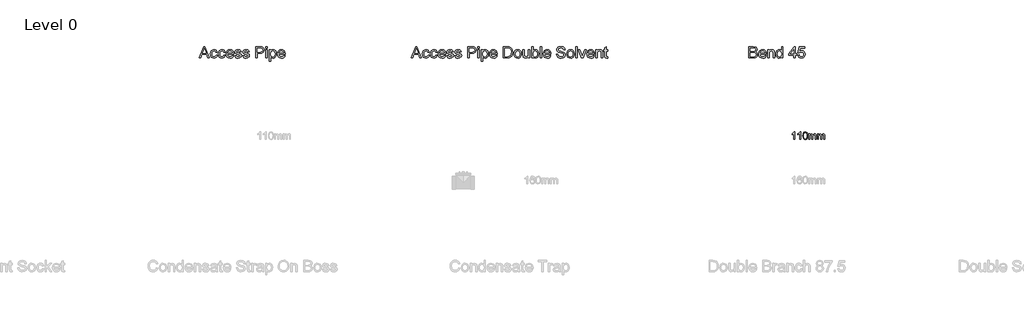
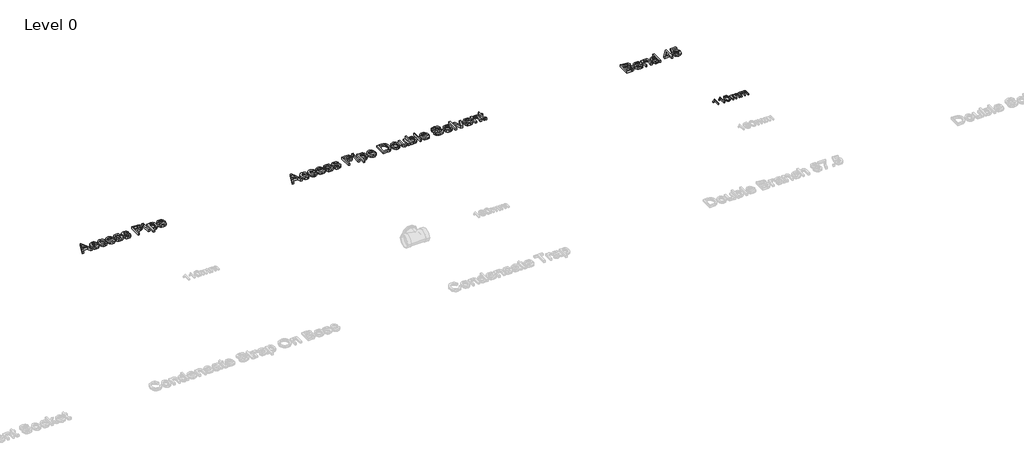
# One storey, part 25 of 28: 4 proxies.
"""IFC4 building model written with IfcOpenShell, lengths in millimetres."""

from ifc_helpers import new_model, si_unit, origin, origin_with_axes, place, context, project, spatial, polyline, outline, extrude, element, save

model = new_model("IFC4")

# Units and contexts
model_context = context("Model", 3, world=origin())
ifc_project = project(units=[si_unit("LENGTHUNIT", "METRE", prefix="MILLI")], contexts=[model_context])

# Site, building, storey
site = spatial("IfcSite", under=ifc_project)
building = spatial("IfcBuilding", under=site)
storey = spatial("IfcBuildingStorey", under=building, Name="Level 0", Elevation=0.0)

# Proxies
placement = place(None, origin())
element("IfcBuildingElementProxy", 1, Name="100mm Arial", ObjectType="100mm Arial", at=placement, inside=storey, context=model_context, shape_type="SweptSolid", body=[
    extrude(outline(polyline([(-3291.7293188, 8237.7167304), (-3304.0370111, 8237.7167304), (-3304.0370111, 8314.4474996), (-3315.6956649, 8306.1422111), (-3328.6523957, 8299.9282688), (-3328.6523957, 8311.5628842), (-3310.6115303, 8323.0773073), (-3299.6620111, 8336.1782688), (-3291.7293188, 8336.1782688), (-3291.7293188, 8237.7167304)])), origin_with_axes(), (0.0, 0.0, 1.0), 15.0),
    extrude(outline(polyline([(-3216.3447034, 8237.7167304), (-3228.6523957, 8237.7167304), (-3228.6523957, 8314.4474996), (-3240.3110495, 8306.1422111), (-3253.2677803, 8299.9282688), (-3253.2677803, 8311.5628842), (-3235.2269149, 8323.0773073), (-3224.2773957, 8336.1782688), (-3216.3447034, 8336.1782688), (-3216.3447034, 8237.7167304)])), origin_with_axes(), (0.0, 0.0, 1.0), 15.0),
    extrude(outline(polyline([(-3187.1139341, 8286.1542304), (-3183.4961457, 8314.4835573), (-3172.7509534, 8330.8176919), (-3154.8062418, 8336.1782688), (-3140.4312418, 8333.0051919), (-3130.5033572, 8323.8585573), (-3124.7341264, 8309.2912496), (-3122.4985495, 8286.1542304), (-3126.0802803, 8257.9450958), (-3136.7894149, 8241.5749035), (-3154.8062418, 8236.1782688), (-3167.5947034, 8238.5220188), (-3177.3062418, 8245.5532688), (-3184.6620111, 8262.2059131), (-3187.1139341, 8286.1542304)]), holes=[polyline([(-3174.8062418, 8286.1782688), (-3173.3639341, 8266.8182929), (-3169.0370111, 8255.613365), (-3162.5947034, 8250.2678121), (-3154.8062418, 8248.4859611), (-3147.0177803, 8250.2738217), (-3140.5754726, 8255.6374035), (-3136.2485495, 8266.848341), (-3134.8062418, 8286.1782688), (-3136.2004726, 8305.1025477), (-3140.3831649, 8316.394615), (-3146.8134534, 8322.0015861), (-3154.9504726, 8323.8705765), (-3162.6547995, 8322.2239419), (-3168.8447034, 8317.2840381), (-3173.3158572, 8305.2888458), (-3174.8062418, 8286.1782688)])]), origin_with_axes(), (0.0, 0.0, 1.0), 15.0),
    extrude(outline(polyline([(-3108.6523957, 8237.7167304), (-3108.6523957, 8310.0244227), (-3096.3447034, 8310.0244227), (-3096.3447034, 8298.1253842), (-3087.8831649, 8307.8729804), (-3075.8398957, 8311.5628842), (-3063.5081649, 8307.800865), (-3056.7293188, 8297.2599996), (-3047.1259534, 8307.9871631), (-3034.9985495, 8311.5628842), (-3025.7467466, 8310.0755044), (-3018.9047995, 8305.613365), (-3014.6770351, 8298.0562736), (-3013.2677803, 8287.2840381), (-3013.2677803, 8237.7167304), (-3025.5754726, 8237.7167304), (-3025.5754726, 8281.9955765), (-3026.7172995, 8292.2720188), (-3030.8519149, 8297.332115), (-3037.8831649, 8299.2551919), (-3049.9865303, 8294.3273073), (-3054.8062418, 8278.5340381), (-3054.8062418, 8237.7167304), (-3067.1139341, 8237.7167304), (-3067.1139341, 8283.3657688), (-3069.9624918, 8295.2888458), (-3079.3014341, 8299.2551919), (-3088.4120111, 8296.6109611), (-3094.4697034, 8288.8705765), (-3096.3447034, 8274.1830765), (-3096.3447034, 8237.7167304), (-3108.6523957, 8237.7167304)])), origin_with_axes(), (0.0, 0.0, 1.0), 15.0),
    extrude(outline(polyline([(-2994.8062418, 8237.7167304), (-2994.8062418, 8310.0244227), (-2982.4985495, 8310.0244227), (-2982.4985495, 8298.1253842), (-2974.0370111, 8307.8729804), (-2961.9937418, 8311.5628842), (-2949.6620111, 8307.800865), (-2942.8831649, 8297.2599996), (-2933.2797995, 8307.9871631), (-2921.1523957, 8311.5628842), (-2911.9005928, 8310.0755044), (-2905.0586457, 8305.613365), (-2900.8308813, 8298.0562736), (-2899.4216264, 8287.2840381), (-2899.4216264, 8237.7167304), (-2911.7293188, 8237.7167304), (-2911.7293188, 8281.9955765), (-2912.8711457, 8292.2720188), (-2917.0057611, 8297.332115), (-2924.0370111, 8299.2551919), (-2936.1403764, 8294.3273073), (-2940.960088, 8278.5340381), (-2940.960088, 8237.7167304), (-2953.2677803, 8237.7167304), (-2953.2677803, 8283.3657688), (-2956.116338, 8295.2888458), (-2965.4552803, 8299.2551919), (-2974.5658572, 8296.6109611), (-2980.6235495, 8288.8705765), (-2982.4985495, 8274.1830765), (-2982.4985495, 8237.7167304), (-2994.8062418, 8237.7167304)])), origin_with_axes(), (0.0, 0.0, 1.0), 15.0),
])
element("IfcBuildingElementProxy", 2, Name="150mm Arial", ObjectType="150mm Arial", at=placement, inside=storey, context=model_context, shape_type="SweptSolid", body=[
    extrude(outline(polyline([(-11095.4967397, 9305.2145219), (-11036.5424127, 9452.9068296), (-11020.8212589, 9452.9068296), (-10961.866932, 9305.2145219), (-10981.3741435, 9305.2145219), (-10998.2852012, 9351.3683681), (-11059.1145281, 9351.3683681), (-11075.9895281, 9305.2145219), (-11095.4967397, 9305.2145219)]), holes=[polyline([(-11052.335682, 9369.8299065), (-11005.0279897, 9369.8299065), (-11018.3332781, 9406.1400027), (-11028.6818358, 9434.4452911), (-11037.8765473, 9409.3130796), (-11052.335682, 9369.8299065)])]), origin_with_axes(), (0.0, 0.0, 1.0), 25.0),
    extrude(outline(polyline([(-10875.2202973, 9344.4452911), (-10856.7587589, 9342.1375988), (-10861.9059945, 9325.7178272), (-10871.5784704, 9313.3094738), (-10884.86573, 9305.5074907), (-10900.8573166, 9302.9068296), (-10920.4952372, 9306.5351349), (-10935.851307, 9317.4200508), (-10945.7626651, 9335.0838128), (-10949.0664512, 9359.0486565), (-10943.4234223, 9389.7157238), (-10936.3020281, 9401.2136205), (-10926.2239031, 9409.4212527), (-10914.1671122, 9414.3431277), (-10901.1097204, 9415.9837527), (-10885.5102613, 9413.7301469), (-10873.038807, 9406.9693296), (-10864.0919921, 9396.0618777), (-10859.0664512, 9381.3683681), (-10877.5279897, 9379.0606758), (-10886.0916916, 9392.8888008), (-10900.9654897, 9397.5222142), (-10912.8960786, 9395.2415652), (-10922.36573, 9388.3996181), (-10928.5451171, 9376.6267815), (-10930.6049127, 9359.5534642), (-10928.5901892, 9342.2502791), (-10922.5460185, 9330.4368777), (-10913.2476411, 9323.6354955), (-10901.4702973, 9321.3683681), (-10891.9105017, 9322.7836325), (-10884.0724608, 9327.0294258), (-10878.3708382, 9334.213921), (-10875.2202973, 9344.4452911)])), origin_with_axes(), (0.0, 0.0, 1.0), 25.0),
    extrude(outline(polyline([(-10771.3741435, 9344.4452911), (-10752.912605, 9342.1375988), (-10758.0598406, 9325.7178272), (-10767.7323166, 9313.3094738), (-10781.0195762, 9305.5074907), (-10797.0111627, 9302.9068296), (-10816.6490834, 9306.5351349), (-10832.0051531, 9317.4200508), (-10841.9165113, 9335.0838128), (-10845.2202973, 9359.0486565), (-10839.5772685, 9389.7157238), (-10832.4558743, 9401.2136205), (-10822.3777493, 9409.4212527), (-10810.3209584, 9414.3431277), (-10797.2635666, 9415.9837527), (-10781.6641074, 9413.7301469), (-10769.1926531, 9406.9693296), (-10760.2458382, 9396.0618777), (-10755.2202973, 9381.3683681), (-10773.6818358, 9379.0606758), (-10782.2455377, 9392.8888008), (-10797.1193358, 9397.5222142), (-10809.0499247, 9395.2415652), (-10818.5195762, 9388.3996181), (-10824.6989632, 9376.6267815), (-10826.7587589, 9359.5534642), (-10824.7440353, 9342.2502791), (-10818.6998647, 9330.4368777), (-10809.4014872, 9323.6354955), (-10797.6241435, 9321.3683681), (-10788.0643478, 9322.7836325), (-10780.226307, 9327.0294258), (-10774.5246844, 9334.213921), (-10771.3741435, 9344.4452911)])), origin_with_axes(), (0.0, 0.0, 1.0), 25.0),
    extrude(outline(polyline([(-10660.8212589, 9337.5222142), (-10642.7202973, 9335.2145219), (-10649.2422324, 9321.5756998), (-10659.6493839, 9311.3803873), (-10673.7073767, 9305.025219), (-10691.1818358, 9302.9068296), (-10712.8434945, 9306.5621782), (-10729.5111627, 9317.5282238), (-10740.1391675, 9335.0928272), (-10743.6818358, 9358.5438488), (-10740.1031098, 9382.7836325), (-10729.366932, 9400.9116373), (-10712.9246243, 9412.2157238), (-10692.2275089, 9415.9837527), (-10672.1749247, 9412.2247383), (-10656.1517877, 9400.947695), (-10645.6454776, 9382.8557479), (-10642.1433743, 9358.6520219), (-10642.2515473, 9353.6760604), (-10725.2202973, 9353.6760604), (-10722.0246844, 9339.8569498), (-10714.601307, 9329.697695), (-10703.8876651, 9323.4506998), (-10690.8212589, 9321.3683681), (-10672.7202973, 9325.2265411), (-10660.8212589, 9337.5222142)]), holes=[polyline([(-10725.2202973, 9372.1375988), (-10660.6049127, 9372.1375988), (-10663.1019079, 9381.8912046), (-10667.9967397, 9388.8683681), (-10678.7599608, 9395.3587527), (-10692.2996243, 9397.5222142), (-10704.7440353, 9395.7959522), (-10715.0339993, 9390.6171661), (-10722.186944, 9382.5447503), (-10725.2202973, 9372.1375988)])]), origin_with_axes(), (0.0, 0.0, 1.0), 25.0),
    extrude(outline(polyline([(-10630.6049127, 9337.5222142), (-10612.1433743, 9339.8299065), (-10609.2317156, 9331.9332719), (-10603.5977012, 9326.1279835), (-10584.0183743, 9321.3683681), (-10565.1962589, 9325.7313488), (-10559.0664512, 9335.9717335), (-10565.2323166, 9344.2650027), (-10584.2347204, 9349.5294258), (-10612.0352012, 9358.5618777), (-10624.1686147, 9369.1087527), (-10628.2972204, 9384.0005796), (-10624.9799127, 9397.7565892), (-10615.929432, 9408.2674065), (-10604.1926531, 9413.7301469), (-10588.3092397, 9415.9837527), (-10565.8452973, 9412.3599546), (-10551.5664512, 9402.5522623), (-10545.2202973, 9385.9837527), (-10563.6818358, 9383.6760604), (-10570.6229416, 9393.8623585), (-10586.866932, 9397.5222142), (-10604.5352012, 9394.0246181), (-10609.835682, 9385.8755796), (-10607.6361627, 9380.5029835), (-10600.7491435, 9376.4284642), (-10584.8477012, 9372.4981758), (-10557.7503454, 9363.8082719), (-10545.1662108, 9353.9645219), (-10540.6049127, 9337.9188488), (-10545.95948, 9320.2505796), (-10561.4102012, 9307.43207), (-10584.2707781, 9302.9068296), (-10602.8855618, 9305.08832), (-10616.4702973, 9311.6327911), (-10625.538807, 9322.4681277), (-10630.6049127, 9337.5222142)])), origin_with_axes(), (0.0, 0.0, 1.0), 25.0),
    extrude(outline(polyline([(-10526.7587589, 9337.5222142), (-10508.2972204, 9339.8299065), (-10505.3855618, 9331.9332719), (-10499.7515473, 9326.1279835), (-10480.1722204, 9321.3683681), (-10461.350105, 9325.7313488), (-10455.2202973, 9335.9717335), (-10461.3861627, 9344.2650027), (-10480.3885666, 9349.5294258), (-10508.1890473, 9358.5618777), (-10520.3224608, 9369.1087527), (-10524.4510666, 9384.0005796), (-10521.1337589, 9397.7565892), (-10512.0832781, 9408.2674065), (-10500.3464993, 9413.7301469), (-10484.4630858, 9415.9837527), (-10461.9991435, 9412.3599546), (-10447.7202973, 9402.5522623), (-10441.3741435, 9385.9837527), (-10459.835682, 9383.6760604), (-10466.7767877, 9393.8623585), (-10483.0207781, 9397.5222142), (-10500.6890473, 9394.0246181), (-10505.9895281, 9385.8755796), (-10503.7900089, 9380.5029835), (-10496.9029897, 9376.4284642), (-10481.0015473, 9372.4981758), (-10453.9041916, 9363.8082719), (-10441.320057, 9353.9645219), (-10436.7587589, 9337.9188488), (-10442.1133262, 9320.2505796), (-10457.5640473, 9307.43207), (-10480.4246243, 9302.9068296), (-10499.0394079, 9305.08832), (-10512.6241435, 9311.6327911), (-10521.6926531, 9322.4681277), (-10526.7587589, 9337.5222142)])), origin_with_axes(), (0.0, 0.0, 1.0), 25.0),
    extrude(outline(polyline([(-10355.9895281, 9305.2145219), (-10355.9895281, 9452.9068296), (-10301.2539512, 9452.9068296), (-10279.1866435, 9451.5005796), (-10261.2479416, 9444.5955315), (-10249.6193358, 9430.3166854), (-10245.2202973, 9410.1784642), (-10248.1905497, 9392.7716133), (-10257.101307, 9378.2674065), (-10273.764468, 9368.4777431), (-10299.991932, 9365.2145219), (-10337.5279897, 9365.2145219), (-10337.5279897, 9305.2145219), (-10355.9895281, 9305.2145219)]), holes=[polyline([(-10337.5279897, 9383.6760604), (-10298.9102012, 9383.6760604), (-10282.5400089, 9385.3707719), (-10271.7227012, 9390.4549065), (-10265.6920522, 9398.6129594), (-10263.6818358, 9409.5294258), (-10268.4234223, 9424.8178873), (-10280.881355, 9433.1832719), (-10299.3428935, 9434.4452911), (-10337.5279897, 9434.4452911), (-10337.5279897, 9383.6760604)])]), origin_with_axes(), (0.0, 0.0, 1.0), 25.0),
    extrude(outline(polyline([(-10222.1433743, 9434.4452911), (-10222.1433743, 9452.9068296), (-10203.6818358, 9452.9068296), (-10203.6818358, 9434.4452911), (-10222.1433743, 9434.4452911)])), origin_with_axes(), (0.0, 0.0, 1.0), 25.0),
    extrude(outline(polyline([(-10222.1433743, 9305.2145219), (-10222.1433743, 9413.6760604), (-10203.6818358, 9413.6760604), (-10203.6818358, 9305.2145219), (-10222.1433743, 9305.2145219)])), origin_with_axes(), (0.0, 0.0, 1.0), 25.0),
    extrude(outline(polyline([(-10175.9895281, 9263.6760604), (-10175.9895281, 9413.6760604), (-10157.5279897, 9413.6760604), (-10157.5279897, 9395.5750988), (-10144.7635666, 9410.8815892), (-10127.5279897, 9415.9837527), (-10115.0430137, 9414.1988969), (-10104.1265473, 9408.8443296), (-10095.2383262, 9400.24457), (-10088.8380858, 9388.7241373), (-10083.6818358, 9360.2746181), (-10085.1376651, 9344.4858561), (-10089.5051531, 9330.3647623), (-10096.6445762, 9318.6279835), (-10106.4162108, 9309.9921661), (-10117.7969199, 9304.6781637), (-10129.7635666, 9302.9068296), (-10145.8272685, 9307.6484161), (-10157.5279897, 9319.6375988), (-10157.5279897, 9263.6760604), (-10175.9895281, 9263.6760604)]), holes=[polyline([(-10157.5279897, 9358.5799065), (-10155.5312949, 9342.0294258), (-10149.5412108, 9330.4549065), (-10140.702569, 9323.6400027), (-10130.1602012, 9321.3683681), (-10119.4465594, 9323.7211325), (-10110.382557, 9330.7794258), (-10104.2031699, 9342.7776229), (-10102.1433743, 9359.9500988), (-10104.1535906, 9376.4104354), (-10110.1842397, 9388.1472142), (-10119.0093598, 9395.1784642), (-10129.4029897, 9397.5222142), (-10139.8371844, 9395.0297262), (-10149.0003454, 9387.5522623), (-10155.3960786, 9375.3241974), (-10157.5279897, 9358.5799065)])]), origin_with_axes(), (0.0, 0.0, 1.0), 25.0),
    extrude(outline(polyline([(-9986.975105, 9337.5222142), (-9968.8741435, 9335.2145219), (-9975.3960786, 9321.5756998), (-9985.80323, 9311.3803873), (-9999.8612228, 9305.025219), (-10017.335682, 9302.9068296), (-10038.9973406, 9306.5621782), (-10055.6650089, 9317.5282238), (-10066.2930137, 9335.0928272), (-10069.835682, 9358.5438488), (-10066.256956, 9382.7836325), (-10055.5207781, 9400.9116373), (-10039.0784704, 9412.2157238), (-10018.381355, 9415.9837527), (-9998.3287709, 9412.2247383), (-9982.3056339, 9400.947695), (-9971.7993238, 9382.8557479), (-9968.2972204, 9358.6520219), (-9968.4053935, 9353.6760604), (-10051.3741435, 9353.6760604), (-10048.1785305, 9339.8569498), (-10040.7551531, 9329.697695), (-10030.0415113, 9323.4506998), (-10016.975105, 9321.3683681), (-9998.8741435, 9325.2265411), (-9986.975105, 9337.5222142)]), holes=[polyline([(-10051.3741435, 9372.1375988), (-9986.7587589, 9372.1375988), (-9989.2557541, 9381.8912046), (-9994.1505858, 9388.8683681), (-10004.913807, 9395.3587527), (-10018.4534704, 9397.5222142), (-10030.8978815, 9395.7959522), (-10041.1878454, 9390.6171661), (-10048.3407901, 9382.5447503), (-10051.3741435, 9372.1375988)])]), origin_with_axes(), (0.0, 0.0, 1.0), 25.0),
])
element("IfcBuildingElementProxy", 3, Name="150mm Arial", ObjectType="150mm Arial", at=placement, inside=storey, context=model_context, shape_type="SweptSolid", body=[
    extrude(outline(polyline([(-8317.804432, 9305.2145219), (-8258.850105, 9452.9068296), (-8243.1289512, 9452.9068296), (-8184.1746243, 9305.2145219), (-8203.6818358, 9305.2145219), (-8220.5928935, 9351.3683681), (-8281.4222204, 9351.3683681), (-8298.2972204, 9305.2145219), (-8317.804432, 9305.2145219)]), holes=[polyline([(-8274.6433743, 9369.8299065), (-8227.335682, 9369.8299065), (-8240.6409704, 9406.1400027), (-8250.9895281, 9434.4452911), (-8260.1842397, 9409.3130796), (-8274.6433743, 9369.8299065)])]), origin_with_axes(), (0.0, 0.0, 1.0), 25.0),
    extrude(outline(polyline([(-8097.5279897, 9344.4452911), (-8079.0664512, 9342.1375988), (-8084.2136868, 9325.7178272), (-8093.8861627, 9313.3094738), (-8107.1734223, 9305.5074907), (-8123.1650089, 9302.9068296), (-8142.8029296, 9306.5351349), (-8158.1589993, 9317.4200508), (-8168.0703574, 9335.0838128), (-8171.3741435, 9359.0486565), (-8165.7311147, 9389.7157238), (-8158.6097204, 9401.2136205), (-8148.5315954, 9409.4212527), (-8136.4748046, 9414.3431277), (-8123.4174127, 9415.9837527), (-8107.8179536, 9413.7301469), (-8095.3464993, 9406.9693296), (-8086.3996844, 9396.0618777), (-8081.3741435, 9381.3683681), (-8099.835682, 9379.0606758), (-8108.3993839, 9392.8888008), (-8123.273182, 9397.5222142), (-8135.2037709, 9395.2415652), (-8144.6734223, 9388.3996181), (-8150.8528094, 9376.6267815), (-8152.912605, 9359.5534642), (-8150.8978815, 9342.2502791), (-8144.8537108, 9330.4368777), (-8135.5553334, 9323.6354955), (-8123.7779897, 9321.3683681), (-8114.218194, 9322.7836325), (-8106.3801531, 9327.0294258), (-8100.6785305, 9334.213921), (-8097.5279897, 9344.4452911)])), origin_with_axes(), (0.0, 0.0, 1.0), 25.0),
    extrude(outline(polyline([(-7993.6818358, 9344.4452911), (-7975.2202973, 9342.1375988), (-7980.3675329, 9325.7178272), (-7990.0400089, 9313.3094738), (-8003.3272685, 9305.5074907), (-8019.318855, 9302.9068296), (-8038.9567757, 9306.5351349), (-8054.3128454, 9317.4200508), (-8064.2242036, 9335.0838128), (-8067.5279897, 9359.0486565), (-8061.8849608, 9389.7157238), (-8054.7635666, 9401.2136205), (-8044.6854416, 9409.4212527), (-8032.6286507, 9414.3431277), (-8019.5712589, 9415.9837527), (-8003.9717997, 9413.7301469), (-7991.5003454, 9406.9693296), (-7982.5535305, 9396.0618777), (-7977.5279897, 9381.3683681), (-7995.9895281, 9379.0606758), (-8004.55323, 9392.8888008), (-8019.4270281, 9397.5222142), (-8031.3576171, 9395.2415652), (-8040.8272685, 9388.3996181), (-8047.0066555, 9376.6267815), (-8049.0664512, 9359.5534642), (-8047.0517276, 9342.2502791), (-8041.007557, 9330.4368777), (-8031.7091796, 9323.6354955), (-8019.9318358, 9321.3683681), (-8010.3720401, 9322.7836325), (-8002.5339993, 9327.0294258), (-7996.8323767, 9334.213921), (-7993.6818358, 9344.4452911)])), origin_with_axes(), (0.0, 0.0, 1.0), 25.0),
    extrude(outline(polyline([(-7883.1289512, 9337.5222142), (-7865.0279897, 9335.2145219), (-7871.5499247, 9321.5756998), (-7881.9570762, 9311.3803873), (-7896.015069, 9305.025219), (-7913.4895281, 9302.9068296), (-7935.1511868, 9306.5621782), (-7951.818855, 9317.5282238), (-7962.4468598, 9335.0928272), (-7965.9895281, 9358.5438488), (-7962.4108022, 9382.7836325), (-7951.6746243, 9400.9116373), (-7935.2323166, 9412.2157238), (-7914.5352012, 9415.9837527), (-7894.4826171, 9412.2247383), (-7878.45948, 9400.947695), (-7867.9531699, 9382.8557479), (-7864.4510666, 9358.6520219), (-7864.5592397, 9353.6760604), (-7947.5279897, 9353.6760604), (-7944.3323767, 9339.8569498), (-7936.9089993, 9329.697695), (-7926.1953574, 9323.4506998), (-7913.1289512, 9321.3683681), (-7895.0279897, 9325.2265411), (-7883.1289512, 9337.5222142)]), holes=[polyline([(-7947.5279897, 9372.1375988), (-7882.912605, 9372.1375988), (-7885.4096002, 9381.8912046), (-7890.304432, 9388.8683681), (-7901.0676531, 9395.3587527), (-7914.6073166, 9397.5222142), (-7927.0517276, 9395.7959522), (-7937.3416916, 9390.6171661), (-7944.4946363, 9382.5447503), (-7947.5279897, 9372.1375988)])]), origin_with_axes(), (0.0, 0.0, 1.0), 25.0),
    extrude(outline(polyline([(-7852.912605, 9337.5222142), (-7834.4510666, 9339.8299065), (-7831.5394079, 9331.9332719), (-7825.9053935, 9326.1279835), (-7806.3260666, 9321.3683681), (-7787.5039512, 9325.7313488), (-7781.3741435, 9335.9717335), (-7787.5400089, 9344.2650027), (-7806.5424127, 9349.5294258), (-7834.3428935, 9358.5618777), (-7846.476307, 9369.1087527), (-7850.6049127, 9384.0005796), (-7847.287605, 9397.7565892), (-7838.2371243, 9408.2674065), (-7826.5003454, 9413.7301469), (-7810.616932, 9415.9837527), (-7788.1529897, 9412.3599546), (-7773.8741435, 9402.5522623), (-7767.5279897, 9385.9837527), (-7785.9895281, 9383.6760604), (-7792.9306339, 9393.8623585), (-7809.1746243, 9397.5222142), (-7826.8428935, 9394.0246181), (-7832.1433743, 9385.8755796), (-7829.943855, 9380.5029835), (-7823.0568358, 9376.4284642), (-7807.1553935, 9372.4981758), (-7780.0580377, 9363.8082719), (-7767.4739031, 9353.9645219), (-7762.912605, 9337.9188488), (-7768.2671723, 9320.2505796), (-7783.7178935, 9307.43207), (-7806.5784704, 9302.9068296), (-7825.1932541, 9305.08832), (-7838.7779897, 9311.6327911), (-7847.8464993, 9322.4681277), (-7852.912605, 9337.5222142)])), origin_with_axes(), (0.0, 0.0, 1.0), 25.0),
    extrude(outline(polyline([(-7749.0664512, 9337.5222142), (-7730.6049127, 9339.8299065), (-7727.6932541, 9331.9332719), (-7722.0592397, 9326.1279835), (-7702.4799127, 9321.3683681), (-7683.6577973, 9325.7313488), (-7677.5279897, 9335.9717335), (-7683.693855, 9344.2650027), (-7702.6962589, 9349.5294258), (-7730.4967397, 9358.5618777), (-7742.6301531, 9369.1087527), (-7746.7587589, 9384.0005796), (-7743.4414512, 9397.7565892), (-7734.3909704, 9408.2674065), (-7722.6541916, 9413.7301469), (-7706.7707781, 9415.9837527), (-7684.3068358, 9412.3599546), (-7670.0279897, 9402.5522623), (-7663.6818358, 9385.9837527), (-7682.1433743, 9383.6760604), (-7689.08448, 9393.8623585), (-7705.3284704, 9397.5222142), (-7722.9967397, 9394.0246181), (-7728.2972204, 9385.8755796), (-7726.0977012, 9380.5029835), (-7719.210682, 9376.4284642), (-7703.3092397, 9372.4981758), (-7676.2118839, 9363.8082719), (-7663.6277493, 9353.9645219), (-7659.0664512, 9337.9188488), (-7664.4210185, 9320.2505796), (-7679.8717397, 9307.43207), (-7702.7323166, 9302.9068296), (-7721.3471002, 9305.08832), (-7734.9318358, 9311.6327911), (-7744.0003454, 9322.4681277), (-7749.0664512, 9337.5222142)])), origin_with_axes(), (0.0, 0.0, 1.0), 25.0),
    extrude(outline(polyline([(-7578.2972204, 9305.2145219), (-7578.2972204, 9452.9068296), (-7523.5616435, 9452.9068296), (-7501.4943358, 9451.5005796), (-7483.5556339, 9444.5955315), (-7471.9270281, 9430.3166854), (-7467.5279897, 9410.1784642), (-7470.4982421, 9392.7716133), (-7479.4089993, 9378.2674065), (-7496.0721603, 9368.4777431), (-7522.2996243, 9365.2145219), (-7559.835682, 9365.2145219), (-7559.835682, 9305.2145219), (-7578.2972204, 9305.2145219)]), holes=[polyline([(-7559.835682, 9383.6760604), (-7521.2178935, 9383.6760604), (-7504.8477012, 9385.3707719), (-7494.0303935, 9390.4549065), (-7487.9997445, 9398.6129594), (-7485.9895281, 9409.5294258), (-7490.7311147, 9424.8178873), (-7503.1890473, 9433.1832719), (-7521.6505858, 9434.4452911), (-7559.835682, 9434.4452911), (-7559.835682, 9383.6760604)])]), origin_with_axes(), (0.0, 0.0, 1.0), 25.0),
    extrude(outline(polyline([(-7444.4510666, 9434.4452911), (-7444.4510666, 9452.9068296), (-7425.9895281, 9452.9068296), (-7425.9895281, 9434.4452911), (-7444.4510666, 9434.4452911)])), origin_with_axes(), (0.0, 0.0, 1.0), 25.0),
    extrude(outline(polyline([(-7444.4510666, 9305.2145219), (-7444.4510666, 9413.6760604), (-7425.9895281, 9413.6760604), (-7425.9895281, 9305.2145219), (-7444.4510666, 9305.2145219)])), origin_with_axes(), (0.0, 0.0, 1.0), 25.0),
    extrude(outline(polyline([(-7398.2972204, 9263.6760604), (-7398.2972204, 9413.6760604), (-7379.835682, 9413.6760604), (-7379.835682, 9395.5750988), (-7367.0712589, 9410.8815892), (-7349.835682, 9415.9837527), (-7337.350706, 9414.1988969), (-7326.4342397, 9408.8443296), (-7317.5460185, 9400.24457), (-7311.1457781, 9388.7241373), (-7305.9895281, 9360.2746181), (-7307.4453574, 9344.4858561), (-7311.8128454, 9330.3647623), (-7318.9522685, 9318.6279835), (-7328.7239031, 9309.9921661), (-7340.1046122, 9304.6781637), (-7352.0712589, 9302.9068296), (-7368.1349608, 9307.6484161), (-7379.835682, 9319.6375988), (-7379.835682, 9263.6760604), (-7398.2972204, 9263.6760604)]), holes=[polyline([(-7379.835682, 9358.5799065), (-7377.8389872, 9342.0294258), (-7371.8489031, 9330.4549065), (-7363.0102613, 9323.6400027), (-7352.4678935, 9321.3683681), (-7341.7542517, 9323.7211325), (-7332.6902493, 9330.7794258), (-7326.5108622, 9342.7776229), (-7324.4510666, 9359.9500988), (-7326.4612829, 9376.4104354), (-7332.491932, 9388.1472142), (-7341.3170522, 9395.1784642), (-7351.710682, 9397.5222142), (-7362.1448767, 9395.0297262), (-7371.3080377, 9387.5522623), (-7377.7037709, 9375.3241974), (-7379.835682, 9358.5799065)])]), origin_with_axes(), (0.0, 0.0, 1.0), 25.0),
    extrude(outline(polyline([(-7209.2827973, 9337.5222142), (-7191.1818358, 9335.2145219), (-7197.7037709, 9321.5756998), (-7208.1109223, 9311.3803873), (-7222.1689151, 9305.025219), (-7239.6433743, 9302.9068296), (-7261.3050329, 9306.5621782), (-7277.9727012, 9317.5282238), (-7288.600706, 9335.0928272), (-7292.1433743, 9358.5438488), (-7288.5646483, 9382.7836325), (-7277.8284704, 9400.9116373), (-7261.3861627, 9412.2157238), (-7240.6890473, 9415.9837527), (-7220.6364632, 9412.2247383), (-7204.6133262, 9400.947695), (-7194.1070161, 9382.8557479), (-7190.6049127, 9358.6520219), (-7190.7130858, 9353.6760604), (-7273.6818358, 9353.6760604), (-7270.4862228, 9339.8569498), (-7263.0628454, 9329.697695), (-7252.3492036, 9323.4506998), (-7239.2827973, 9321.3683681), (-7221.1818358, 9325.2265411), (-7209.2827973, 9337.5222142)]), holes=[polyline([(-7273.6818358, 9372.1375988), (-7209.0664512, 9372.1375988), (-7211.5634464, 9381.8912046), (-7216.4582781, 9388.8683681), (-7227.2214993, 9395.3587527), (-7240.7611627, 9397.5222142), (-7253.2055738, 9395.7959522), (-7263.4955377, 9390.6171661), (-7270.6484824, 9382.5447503), (-7273.6818358, 9372.1375988)])]), origin_with_axes(), (0.0, 0.0, 1.0), 25.0),
    extrude(outline(polyline([(-7112.1433743, 9305.2145219), (-7112.1433743, 9452.9068296), (-7061.193855, 9452.9068296), (-7034.835682, 9450.7794258), (-7013.1289512, 9440.2145219), (-7002.9156098, 9428.9645219), (-6995.6409704, 9414.9741373), (-6991.2870041, 9398.5138008), (-6989.835682, 9379.853945), (-6993.7659704, 9350.0522623), (-7003.8621243, 9328.5438488), (-7017.3477012, 9315.1484161), (-7034.9979416, 9307.7385604), (-7058.741932, 9305.2145219), (-7112.1433743, 9305.2145219)]), holes=[polyline([(-7093.6818358, 9323.6760604), (-7061.0135666, 9323.6760604), (-7037.2515473, 9326.3443296), (-7023.5496243, 9333.8803873), (-7012.3176531, 9352.2157238), (-7008.2972204, 9380.1424065), (-7010.2668719, 9400.2625988), (-7016.1758262, 9415.1183681), (-7024.9062949, 9425.322695), (-7035.3404897, 9431.4885604), (-7061.5183743, 9434.4452911), (-7093.6818358, 9434.4452911), (-7093.6818358, 9323.6760604)])]), origin_with_axes(), (0.0, 0.0, 1.0), 25.0),
    extrude(outline(polyline([(-6971.3741435, 9359.4452911), (-6967.3807541, 9385.5961325), (-6955.4005858, 9403.9765411), (-6940.5989031, 9412.9819498), (-6922.8765473, 9415.9837527), (-6903.4820161, 9412.3284041), (-6887.99073, 9401.3623585), (-6877.8359824, 9383.9510003), (-6874.4510666, 9360.9597142), (-6875.9474608, 9342.3088729), (-6880.4366435, 9328.1111565), (-6887.7879055, 9317.4786445), (-6897.8705377, 9309.5234161), (-6909.8461988, 9304.5609762), (-6922.8765473, 9302.9068296), (-6942.5054536, 9306.5486565), (-6957.9787108, 9317.4741373), (-6968.0252853, 9335.2505796), (-6971.3741435, 9359.4452911)]), holes=[polyline([(-6952.912605, 9359.4813488), (-6950.7761868, 9342.7731157), (-6944.366932, 9330.86957), (-6934.7214993, 9323.7436686), (-6922.8765473, 9321.3683681), (-6911.085682, 9323.7571902), (-6901.4582781, 9330.9236565), (-6895.0490233, 9342.9849546), (-6892.912605, 9360.0582719), (-6895.0625449, 9376.2797262), (-6901.5123647, 9388.0210123), (-6911.1532901, 9395.1469137), (-6922.8765473, 9397.5222142), (-6934.7214993, 9395.1559282), (-6944.366932, 9388.05707), (-6950.7761868, 9376.1805676), (-6952.912605, 9359.4813488)])]), origin_with_axes(), (0.0, 0.0, 1.0), 25.0),
    extrude(outline(polyline([(-6784.4510666, 9305.2145219), (-6784.4510666, 9323.8563488), (-6798.9102012, 9308.1442094), (-6817.7683743, 9302.9068296), (-6835.1301531, 9306.5847142), (-6847.101307, 9315.8154835), (-6852.600105, 9329.4092335), (-6853.6818358, 9346.572695), (-6853.6818358, 9413.6760604), (-6835.2202973, 9413.6760604), (-6835.2202973, 9355.2625988), (-6834.1025089, 9336.4404835), (-6826.8008262, 9325.3888008), (-6813.0448166, 9321.3683681), (-6797.6301531, 9325.478945), (-6787.443855, 9336.6748585), (-6784.4510666, 9357.2457719), (-6784.4510666, 9413.6760604), (-6765.9895281, 9413.6760604), (-6765.9895281, 9305.2145219), (-6784.4510666, 9305.2145219)])), origin_with_axes(), (0.0, 0.0, 1.0), 25.0),
    extrude(outline(polyline([(-6722.1433743, 9305.2145219), (-6740.6049127, 9305.2145219), (-6740.6049127, 9452.9068296), (-6722.1433743, 9452.9068296), (-6722.1433743, 9398.135195), (-6709.2166916, 9411.5216133), (-6693.1529897, 9415.9837527), (-6674.6553935, 9411.96332), (-6660.304432, 9400.6592335), (-6651.4883262, 9383.0811085), (-6648.2972204, 9361.0678873), (-6651.6010065, 9336.4224546), (-6661.5123647, 9318.0871181), (-6676.0571363, 9306.7019017), (-6693.2611627, 9302.9068296), (-6709.6764272, 9307.8016613), (-6722.1433743, 9322.4861565), (-6722.1433743, 9305.2145219)]), holes=[polyline([(-6722.1433743, 9360.2025027), (-6720.881355, 9344.8058681), (-6717.0952973, 9334.385195), (-6707.4228214, 9324.6225748), (-6694.8477012, 9321.3683681), (-6684.1926531, 9323.7662046), (-6675.0880858, 9330.9597142), (-6668.8410906, 9342.9038248), (-6666.7587589, 9359.5534642), (-6668.7554536, 9376.4464931), (-6674.7455377, 9388.2553873), (-6683.5661507, 9395.2055075), (-6694.054432, 9397.5222142), (-6704.70948, 9395.1243777), (-6713.8140473, 9387.9308681), (-6720.0610425, 9376.2031036), (-6722.1433743, 9360.2025027)])]), origin_with_axes(), (0.0, 0.0, 1.0), 25.0),
    extrude(outline(polyline([(-6627.5279897, 9305.2145219), (-6627.5279897, 9452.9068296), (-6609.0664512, 9452.9068296), (-6609.0664512, 9305.2145219), (-6627.5279897, 9305.2145219)])), origin_with_axes(), (0.0, 0.0, 1.0), 25.0),
    extrude(outline(polyline([(-6505.4366435, 9337.5222142), (-6487.335682, 9335.2145219), (-6493.8576171, 9321.5756998), (-6504.2647685, 9311.3803873), (-6518.3227613, 9305.025219), (-6535.7972204, 9302.9068296), (-6557.4588791, 9306.5621782), (-6574.1265473, 9317.5282238), (-6584.7545522, 9335.0928272), (-6588.2972204, 9358.5438488), (-6584.7184945, 9382.7836325), (-6573.9823166, 9400.9116373), (-6557.5400089, 9412.2157238), (-6536.8428935, 9415.9837527), (-6516.7903094, 9412.2247383), (-6500.7671723, 9400.947695), (-6490.2608622, 9382.8557479), (-6486.7587589, 9358.6520219), (-6486.866932, 9353.6760604), (-6569.835682, 9353.6760604), (-6566.640069, 9339.8569498), (-6559.2166916, 9329.697695), (-6548.5030497, 9323.4506998), (-6535.4366435, 9321.3683681), (-6517.335682, 9325.2265411), (-6505.4366435, 9337.5222142)]), holes=[polyline([(-6569.835682, 9372.1375988), (-6505.2202973, 9372.1375988), (-6507.7172925, 9381.8912046), (-6512.6121243, 9388.8683681), (-6523.3753454, 9395.3587527), (-6536.9150089, 9397.5222142), (-6549.3594199, 9395.7959522), (-6559.6493839, 9390.6171661), (-6566.8023286, 9382.5447503), (-6569.835682, 9372.1375988)])]), origin_with_axes(), (0.0, 0.0, 1.0), 25.0),
    extrude(outline(polyline([(-6415.2202973, 9355.9837527), (-6396.7587589, 9355.9837527), (-6390.8092397, 9337.5041854), (-6376.2779897, 9325.8214931), (-6354.1385666, 9321.3683681), (-6334.8477012, 9324.7397623), (-6322.3897685, 9334.0065892), (-6318.2972204, 9346.3924065), (-6321.3621243, 9357.9128392), (-6333.9102012, 9366.2962527), (-6360.7912108, 9373.3455315), (-6389.7275089, 9382.4500988), (-6405.4306339, 9396.1880796), (-6410.6049127, 9414.541445), (-6409.0048526, 9425.3542455), (-6404.2046723, 9435.4368777), (-6396.3305738, 9443.9825508), (-6385.5087589, 9450.1844738), (-6358.1409704, 9455.2145219), (-6328.9342397, 9449.9500988), (-6317.7383262, 9443.4506998), (-6309.4630858, 9434.4813488), (-6304.225706, 9423.6009402), (-6302.1433743, 9411.3683681), (-6320.6049127, 9411.3683681), (-6323.9943358, 9422.3839931), (-6331.0616435, 9430.3347142), (-6342.1043118, 9435.1484161), (-6357.4198166, 9436.7529835), (-6373.0958983, 9435.166445), (-6383.850105, 9430.4068296), (-6390.070057, 9423.4026229), (-6392.1433743, 9415.0823104), (-6390.6740233, 9407.9879594), (-6386.2659704, 9402.2818296), (-6356.1217397, 9391.9693296), (-6323.4534704, 9382.7025027), (-6312.9291315, 9376.0047863), (-6305.5868839, 9367.7385604), (-6299.835682, 9346.8611565), (-6301.4898286, 9335.4804474), (-6306.4522685, 9324.77582), (-6314.5201772, 9315.5630796), (-6325.49073, 9308.6580315), (-6353.4174127, 9302.9068296), (-6371.5048526, 9304.4573104), (-6386.3921723, 9309.1087527), (-6398.2506459, 9316.8791854), (-6407.2515473, 9327.7866373), (-6413.0297925, 9341.0738969), (-6415.2202973, 9355.9837527)])), origin_with_axes(), (0.0, 0.0, 1.0), 25.0),
    extrude(outline(polyline([(-6279.0664512, 9359.4452911), (-6275.0730618, 9385.5961325), (-6263.0928935, 9403.9765411), (-6248.2912108, 9412.9819498), (-6230.568855, 9415.9837527), (-6211.1743238, 9412.3284041), (-6195.6830377, 9401.3623585), (-6185.5282901, 9383.9510003), (-6182.1433743, 9360.9597142), (-6183.6397685, 9342.3088729), (-6188.1289512, 9328.1111565), (-6195.4802132, 9317.4786445), (-6205.5628454, 9309.5234161), (-6217.5385065, 9304.5609762), (-6230.568855, 9302.9068296), (-6250.1977613, 9306.5486565), (-6265.6710185, 9317.4741373), (-6275.717593, 9335.2505796), (-6279.0664512, 9359.4452911)]), holes=[polyline([(-6260.6049127, 9359.4813488), (-6258.4684945, 9342.7731157), (-6252.0592397, 9330.86957), (-6242.413807, 9323.7436686), (-6230.568855, 9321.3683681), (-6218.7779897, 9323.7571902), (-6209.1505858, 9330.9236565), (-6202.741331, 9342.9849546), (-6200.6049127, 9360.0582719), (-6202.7548526, 9376.2797262), (-6209.2046723, 9388.0210123), (-6218.8455978, 9395.1469137), (-6230.568855, 9397.5222142), (-6242.413807, 9395.1559282), (-6252.0592397, 9388.05707), (-6258.4684945, 9376.1805676), (-6260.6049127, 9359.4813488)])]), origin_with_axes(), (0.0, 0.0, 1.0), 25.0),
    extrude(outline(polyline([(-6161.3741435, 9305.2145219), (-6161.3741435, 9452.9068296), (-6142.912605, 9452.9068296), (-6142.912605, 9305.2145219), (-6161.3741435, 9305.2145219)])), origin_with_axes(), (0.0, 0.0, 1.0), 25.0),
    extrude(outline(polyline([(-6088.6097204, 9305.2145219), (-6126.7587589, 9413.6760604), (-6107.2154897, 9413.6760604), (-6084.1025089, 9348.7000988), (-6077.1433743, 9326.8491373), (-6070.3284704, 9347.4741373), (-6047.0712589, 9413.6760604), (-6027.5279897, 9413.6760604), (-6065.2082781, 9305.2145219), (-6088.6097204, 9305.2145219)])), origin_with_axes(), (0.0, 0.0, 1.0), 25.0),
    extrude(outline(polyline([(-5935.4366435, 9337.5222142), (-5917.335682, 9335.2145219), (-5923.8576171, 9321.5756998), (-5934.2647685, 9311.3803873), (-5948.3227613, 9305.025219), (-5965.7972204, 9302.9068296), (-5987.4588791, 9306.5621782), (-6004.1265473, 9317.5282238), (-6014.7545522, 9335.0928272), (-6018.2972204, 9358.5438488), (-6014.7184945, 9382.7836325), (-6003.9823166, 9400.9116373), (-5987.5400089, 9412.2157238), (-5966.8428935, 9415.9837527), (-5946.7903094, 9412.2247383), (-5930.7671723, 9400.947695), (-5920.2608622, 9382.8557479), (-5916.7587589, 9358.6520219), (-5916.866932, 9353.6760604), (-5999.835682, 9353.6760604), (-5996.640069, 9339.8569498), (-5989.2166916, 9329.697695), (-5978.5030497, 9323.4506998), (-5965.4366435, 9321.3683681), (-5947.335682, 9325.2265411), (-5935.4366435, 9337.5222142)]), holes=[polyline([(-5999.835682, 9372.1375988), (-5935.2202973, 9372.1375988), (-5937.7172925, 9381.8912046), (-5942.6121243, 9388.8683681), (-5953.3753454, 9395.3587527), (-5966.9150089, 9397.5222142), (-5979.3594199, 9395.7959522), (-5989.6493839, 9390.6171661), (-5996.8023286, 9382.5447503), (-5999.835682, 9372.1375988)])]), origin_with_axes(), (0.0, 0.0, 1.0), 25.0),
    extrude(outline(polyline([(-5898.2972204, 9305.2145219), (-5898.2972204, 9413.6760604), (-5879.835682, 9413.6760604), (-5879.835682, 9398.5318296), (-5865.7190954, 9411.6207719), (-5846.4462589, 9415.9837527), (-5829.0123647, 9412.4681277), (-5817.1133262, 9403.2373585), (-5811.5784704, 9389.6616373), (-5810.6049127, 9371.8130796), (-5810.6049127, 9305.2145219), (-5829.0664512, 9305.2145219), (-5829.0664512, 9369.3250988), (-5831.193855, 9385.6592335), (-5838.7118839, 9394.2950508), (-5851.3861627, 9397.5222142), (-5862.1989632, 9395.7103152), (-5871.4162108, 9390.2746181), (-5877.7308142, 9379.7728152), (-5879.835682, 9362.7625988), (-5879.835682, 9305.2145219), (-5898.2972204, 9305.2145219)])), origin_with_axes(), (0.0, 0.0, 1.0), 25.0),
    extrude(outline(polyline([(-5745.9895281, 9320.6111565), (-5743.6818358, 9304.6736565), (-5757.491932, 9302.9068296), (-5772.960682, 9305.9717335), (-5780.6770281, 9314.0125988), (-5782.912605, 9334.9621181), (-5782.912605, 9395.2145219), (-5796.7587589, 9395.2145219), (-5796.7587589, 9413.6760604), (-5782.912605, 9413.6760604), (-5782.912605, 9440.0342335), (-5764.4510666, 9450.8875988), (-5764.4510666, 9413.6760604), (-5745.9895281, 9413.6760604), (-5745.9895281, 9395.2145219), (-5764.4510666, 9395.2145219), (-5764.4510666, 9335.5029835), (-5763.4775089, 9325.9837527), (-5760.3224608, 9322.6123585), (-5754.0303935, 9321.3683681), (-5745.9895281, 9320.6111565)])), origin_with_axes(), (0.0, 0.0, 1.0), 25.0),
])
element("IfcBuildingElementProxy", 4, Name="150mm Arial", ObjectType="150mm Arial", at=placement, inside=storey, context=model_context, shape_type="SweptSolid", body=[
    extrude(outline(polyline([(-3892.5279897, 9305.2145219), (-3892.5279897, 9452.9068296), (-3836.1698166, 9452.9068296), (-3808.5676531, 9448.5618777), (-3799.2918118, 9443.049558), (-3792.2695762, 9435.2025027), (-3786.3741435, 9416.3082719), (-3791.3320762, 9399.0546661), (-3806.3140473, 9385.9837527), (-3795.8528094, 9380.5210123), (-3788.1229416, 9372.2097142), (-3783.3498046, 9361.5997383), (-3781.7587589, 9349.2409642), (-3786.1037108, 9329.3912046), (-3796.866932, 9315.2565892), (-3812.9306339, 9307.7565892), (-3836.6025089, 9305.2145219), (-3892.5279897, 9305.2145219)]), holes=[polyline([(-3874.0664512, 9323.6760604), (-3836.2058743, 9323.6760604), (-3822.5039512, 9324.3972142), (-3810.9114031, 9328.4176469), (-3803.2311147, 9336.6207719), (-3800.2202973, 9349.0606758), (-3803.7539512, 9363.4116373), (-3815.2022685, 9371.9753392), (-3838.0087589, 9374.4452911), (-3874.0664512, 9374.4452911), (-3874.0664512, 9323.6760604)]), polyline([(-3874.0664512, 9392.9068296), (-3840.3525089, 9392.9068296), (-3820.6650089, 9394.4933681), (-3808.820057, 9401.3263008), (-3804.835682, 9413.3515411), (-3808.5496243, 9425.3948104), (-3819.1866435, 9432.5162046), (-3842.912605, 9434.4452911), (-3874.0664512, 9434.4452911), (-3874.0664512, 9392.9068296)])]), origin_with_axes(), (0.0, 0.0, 1.0), 25.0),
    extrude(outline(polyline([(-3682.7443358, 9337.5222142), (-3664.6433743, 9335.2145219), (-3671.1653094, 9321.5756998), (-3681.5724608, 9311.3803873), (-3695.6304536, 9305.025219), (-3713.1049127, 9302.9068296), (-3734.7665714, 9306.5621782), (-3751.4342397, 9317.5282238), (-3762.0622445, 9335.0928272), (-3765.6049127, 9358.5438488), (-3762.0261868, 9382.7836325), (-3751.2900089, 9400.9116373), (-3734.8477012, 9412.2157238), (-3714.1505858, 9415.9837527), (-3694.0980017, 9412.2247383), (-3678.0748647, 9400.947695), (-3667.5685546, 9382.8557479), (-3664.0664512, 9358.6520219), (-3664.1746243, 9353.6760604), (-3747.1433743, 9353.6760604), (-3743.9477613, 9339.8569498), (-3736.5243839, 9329.697695), (-3725.8107421, 9323.4506998), (-3712.7443358, 9321.3683681), (-3694.6433743, 9325.2265411), (-3682.7443358, 9337.5222142)]), holes=[polyline([(-3747.1433743, 9372.1375988), (-3682.5279897, 9372.1375988), (-3685.0249848, 9381.8912046), (-3689.9198166, 9388.8683681), (-3700.6830377, 9395.3587527), (-3714.2227012, 9397.5222142), (-3726.6671122, 9395.7959522), (-3736.9570762, 9390.6171661), (-3744.1100209, 9382.5447503), (-3747.1433743, 9372.1375988)])]), origin_with_axes(), (0.0, 0.0, 1.0), 25.0),
    extrude(outline(polyline([(-3645.6049127, 9305.2145219), (-3645.6049127, 9413.6760604), (-3627.1433743, 9413.6760604), (-3627.1433743, 9398.5318296), (-3613.0267877, 9411.6207719), (-3593.7539512, 9415.9837527), (-3576.320057, 9412.4681277), (-3564.4210185, 9403.2373585), (-3558.8861627, 9389.6616373), (-3557.912605, 9371.8130796), (-3557.912605, 9305.2145219), (-3576.3741435, 9305.2145219), (-3576.3741435, 9369.3250988), (-3578.5015473, 9385.6592335), (-3586.0195762, 9394.2950508), (-3598.693855, 9397.5222142), (-3609.5066555, 9395.7103152), (-3618.7239031, 9390.2746181), (-3625.0385065, 9379.7728152), (-3627.1433743, 9362.7625988), (-3627.1433743, 9305.2145219), (-3645.6049127, 9305.2145219)])), origin_with_axes(), (0.0, 0.0, 1.0), 25.0),
    extrude(outline(polyline([(-3465.6049127, 9305.2145219), (-3465.6049127, 9322.6303873), (-3477.819456, 9307.837719), (-3494.7034704, 9302.9068296), (-3506.6385666, 9304.6916854), (-3517.5640473, 9310.0462527), (-3526.8128454, 9318.596433), (-3533.7178935, 9329.9681277), (-3538.0177733, 9343.7016012), (-3539.4510666, 9359.3371181), (-3534.1686147, 9388.7241373), (-3527.570057, 9400.3797863), (-3518.3392877, 9408.9525027), (-3507.1749247, 9414.2259402), (-3494.7755858, 9415.9837527), (-3477.756355, 9410.9537046), (-3465.6049127, 9397.8827911), (-3465.6049127, 9452.9068296), (-3447.1433743, 9452.9068296), (-3447.1433743, 9305.2145219), (-3465.6049127, 9305.2145219)]), holes=[polyline([(-3520.9895281, 9359.4092335), (-3518.9071964, 9342.7100147), (-3512.6602012, 9330.8335123), (-3503.5826772, 9323.7346541), (-3493.0087589, 9321.3683681), (-3482.4393478, 9323.6264811), (-3473.5916916, 9330.40082), (-3467.6016074, 9341.8175868), (-3465.6049127, 9358.0029835), (-3467.6376651, 9375.698296), (-3473.7359223, 9387.9669258), (-3482.8089392, 9395.1333921), (-3493.7659704, 9397.5222142), (-3504.4480618, 9395.2280436), (-3513.2010666, 9388.3455315), (-3519.0424127, 9376.5231157), (-3520.9895281, 9359.4092335)])]), origin_with_axes(), (0.0, 0.0, 1.0), 25.0),
    extrude(outline(polyline([(-3306.3741435, 9305.2145219), (-3306.3741435, 9339.8299065), (-3373.2972204, 9339.8299065), (-3373.2972204, 9358.291445), (-3301.7587589, 9450.5991373), (-3287.912605, 9450.5991373), (-3287.912605, 9358.291445), (-3269.4510666, 9358.291445), (-3269.4510666, 9339.8299065), (-3287.912605, 9339.8299065), (-3287.912605, 9305.2145219), (-3306.3741435, 9305.2145219)]), holes=[polyline([(-3306.3741435, 9358.291445), (-3306.3741435, 9415.3347142), (-3350.5808743, 9358.291445), (-3306.3741435, 9358.291445)])]), origin_with_axes(), (0.0, 0.0, 1.0), 25.0),
    extrude(outline(polyline([(-3253.2972204, 9344.4452911), (-3234.835682, 9346.7529835), (-3231.4462589, 9335.6697503), (-3225.5327973, 9327.7325508), (-3217.1223406, 9322.9594137), (-3206.241932, 9321.3683681), (-3193.0087589, 9323.5814089), (-3183.0928935, 9330.2205315), (-3176.8999848, 9340.5195099), (-3174.835682, 9353.7121181), (-3176.7692757, 9366.1339931), (-3182.570057, 9375.635195), (-3192.2830978, 9381.665844), (-3205.9534704, 9383.6760604), (-3222.1614031, 9380.4669258), (-3232.5279897, 9372.1375988), (-3250.9895281, 9374.4452911), (-3234.835682, 9450.5991373), (-3163.2972204, 9450.5991373), (-3163.2972204, 9432.1375988), (-3219.9077973, 9432.1375988), (-3227.804432, 9391.4645219), (-3214.616331, 9399.4693296), (-3200.7972204, 9402.1375988), (-3183.5481219, 9398.8293056), (-3169.2287108, 9388.9044258), (-3159.5877853, 9373.7782238), (-3156.3741435, 9354.8659642), (-3159.2677733, 9336.4044258), (-3167.9486627, 9320.6111565), (-3184.5712589, 9307.3329113), (-3206.3140473, 9302.9068296), (-3224.4465594, 9305.7508801), (-3238.8921723, 9314.2830315), (-3248.7945161, 9327.5116974), (-3253.2972204, 9344.4452911)])), origin_with_axes(), (0.0, 0.0, 1.0), 25.0),
])

save(model, "model.ifc")
